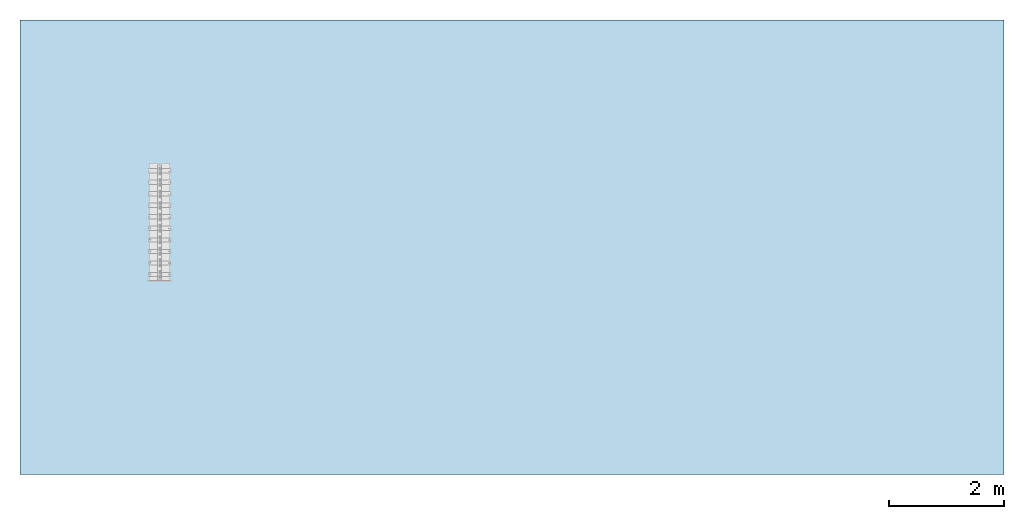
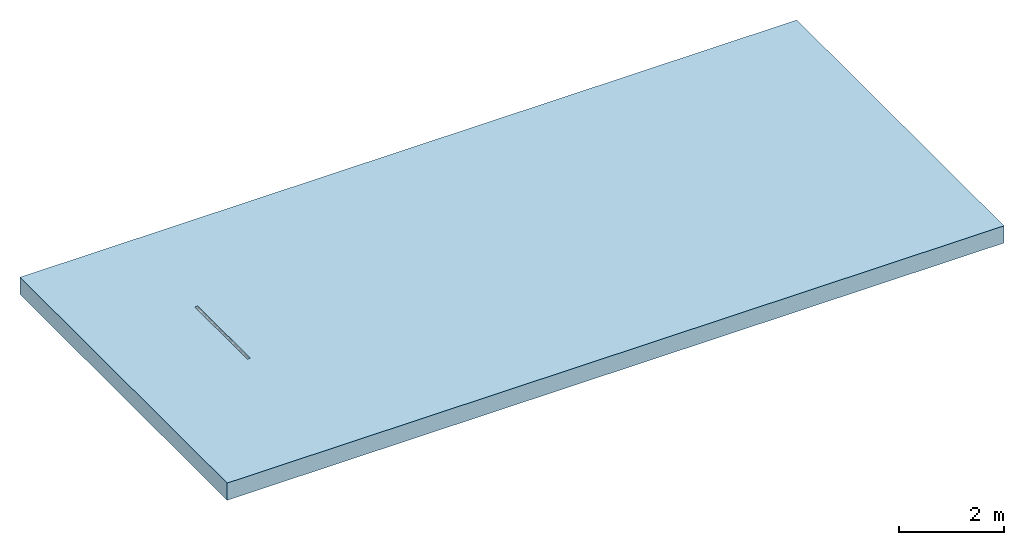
# One storey, incomplete: 1 slab, 1 opening.
"""IFC2X3 building model written with IfcOpenShell, lengths in millimetres."""

from ifc_helpers import new_model, entity, si_unit, converted_unit, direction, frame, frame_2d, origin, place, context, subcontext, project, spatial, polyline, rectangle, outline, extrude, material, layer, layer_set, layer_usage, element, save


model = new_model("IFC2X3")

# Units and contexts
model_context = context("Model", 3, precision=1e-06, world=origin(), true_north=direction((2.0, 6.12303176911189e-17, 1.0)))
context_of_model = context(None, 3, precision=1e-06, world=origin(), true_north=direction((2.0, 6.12303176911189e-17, 1.0)))
body_context = subcontext(model_context, "Body", "Model", "MODEL_VIEW")
ifc_project = project(units=[si_unit("LENGTHUNIT", "METRE", prefix="MILLI"), si_unit("AREAUNIT", "SQUARE_METRE", prefix="MILLI"), si_unit("VOLUMEUNIT", "CUBIC_METRE", prefix="MILLI"), converted_unit("PLANEANGLEUNIT", "DEGREE", entity("IfcRatioMeasure", 0.0174532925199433), si_unit("PLANEANGLEUNIT", "RADIAN"), dimensions=[0, 0, 0, 0, 0, 0, 0]), si_unit("TIMEUNIT", "SECOND")], contexts=[model_context, context_of_model])

# Site, building, storey
site_placement = place(None, origin())
site = spatial("IfcSite", under=ifc_project, at=site_placement, Name="Default", CompositionType="ELEMENT")
building_placement = place(site_placement, origin())
building = spatial("IfcBuilding", under=site, at=building_placement, CompositionType="ELEMENT")
storey_placement = place(building_placement, origin())
storey = spatial("IfcBuildingStorey", under=building, at=storey_placement, Name="Level 1", CompositionType="ELEMENT", Elevation=0.0)

# Slab, opening
ifc_material = material(Name="Plant")
ifc_layer = layer(ifc_material, 400.0)
ifc_layer_set = layer_set([ifc_layer], Name="Floor:Generic Floor - 400mm")
ifc_layer_usage = layer_usage(ifc_layer_set, "AXIS3", "POSITIVE", 0.0)
slab_placement = place(storey_placement, origin())
slab = element("IfcSlab", 1, at=slab_placement, inside=storey, material=ifc_layer_usage, Name="Floor:Generic Floor - 400mm", ObjectType="Floor:Generic Floor - 400mm", PredefinedType="FLOOR", context=body_context, shape_type="SweptSolid", body=[
    extrude(rectangle(XDim=7900.0, YDim=17100.0, at=frame_2d((0.0, 0.0), x_axis=(0.0, -1.0))), frame((-8097.86261836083, 1059.07636553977, 0.0), z_axis=(0.0, 0.0, -1.0), x_axis=(-1.0, 0.0, 0.0)), (0.0, 0.0, 1.0), 400.0),
])
opening_placement = place(slab_placement, origin())
element("IfcOpeningElement", 2, at=opening_placement, cuts=slab, ObjectType="Opening", context=body_context, shape_type="SweptSolid", body=[
    extrude(outline(polyline([(-165.0, 32.5000000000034), (-165.0, -32.4999999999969), (-135.0, -32.4999999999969), (-135.0, -207.499999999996), (435.0, -207.499999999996), (435.0, 207.500000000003), (-135.0, 207.500000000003), (-135.0, 32.5000000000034), (-165.0, 32.5000000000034)])), frame((-14222.8030800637, 486.472255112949, -165.0), z_axis=(0.0, -1.0, 0.0), x_axis=(0.0, 0.0, -1.0)), (0.0, 0.0, -1.0), 2000.0),
])

save(model, "model.ifc")
